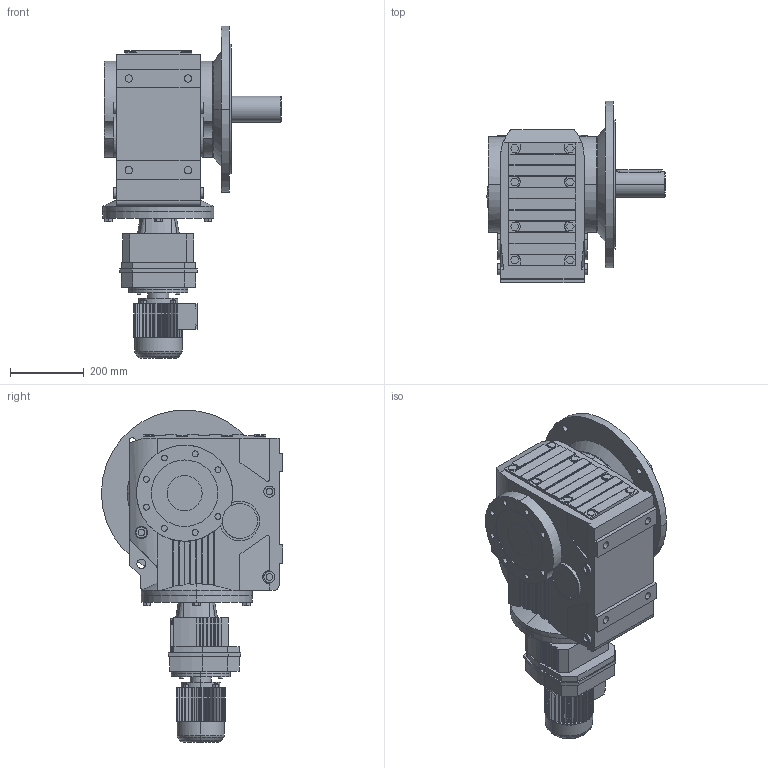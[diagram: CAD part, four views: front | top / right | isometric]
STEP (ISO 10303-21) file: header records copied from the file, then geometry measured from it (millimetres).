
FILE_DESCRIPTION(('Open CASCADE Model'),'2;1');
FILE_NAME('Open CASCADE Shape Model','2021-07-24T17:06:37',('Author'),( 'Open CASCADE'),'Open CASCADE STEP processor 6.3','Open CASCADE 6.3' ,'Unknown');
FILE_SCHEMA(('AUTOMOTIVE_DESIGN_CC2 { 1 2 10303 214 -1 1 5 4 }'));
Length unit declared in the file: millimetre
Products named in the file (6): 1_KF97R57DR63-A; KA37‵107_97.step; 萇儂_160-DR63-185-240-132-105.step; R_97_57.step; す瑩妗陑粣K_97.step; 楊擘K_97.step
Assembly tree (5 placements, depth 2):
  1_KF97R57DR63-A
    KA37‵107_97.step
    萇儂_160-DR63-185-240-132-105.step
    R_97_57.step
    す瑩妗陑粣K_97.step
    楊擘K_97.step
Bounding box: 482 x 490 x 898 mm (x, y, z)
Volume: 53034165.4 mm3; surface area: 1966568.6 mm2
Topology: 5 solids, 5 shells, 1125 faces, 2946 edges, 1924 vertices
Faces by surface type: plane 748, cylinder 349, cone 24, torus 4
Entity records: 82392 total; most frequent: CARTESIAN_POINT 26622, DIRECTION 9467, ORIENTED_EDGE 5888, PCURVE 5888, DEFINITIONAL_REPRESENTATION 5888, LINE 5175, VECTOR 5175, EDGE_CURVE 2944
